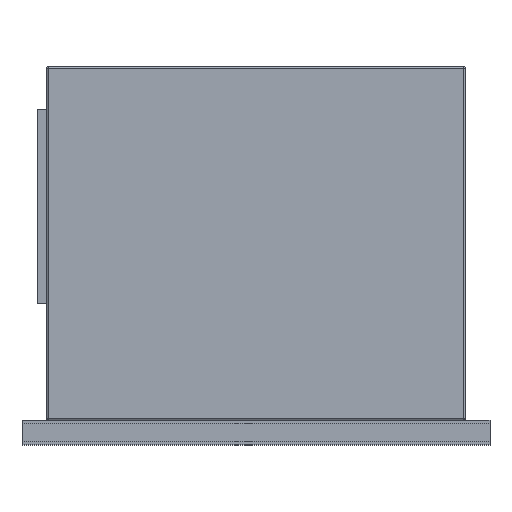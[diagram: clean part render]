
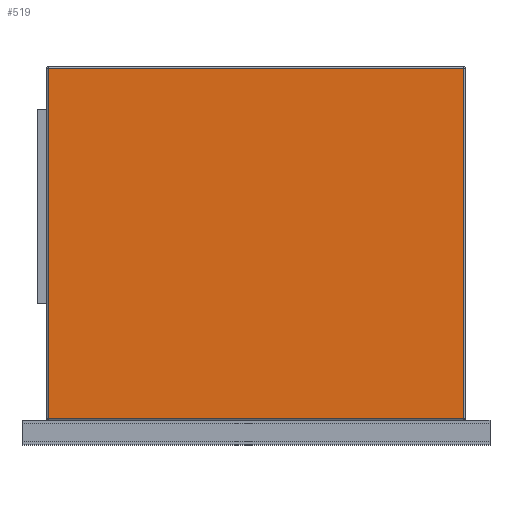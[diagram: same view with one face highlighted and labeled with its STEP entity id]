
A CAD part, top view. The second image highlights one B-rep face of the part: STEP entity #519.
In plain terms, the highlighted planar face has unit normal (0, 0, 1).
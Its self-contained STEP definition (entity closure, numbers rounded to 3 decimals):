
#519=ADVANCED_FACE('',(#1055),#1056,.F.);
#1055=FACE_OUTER_BOUND('',#1589,.T.);
#1056=PLANE('',#1590);
#1589=EDGE_LOOP('',(#3114,#3115,#3116,#3117));
#1590=AXIS2_PLACEMENT_3D('',#3118,#3119,#3120);
#3114=ORIENTED_EDGE('',*,*,#3721,.T.);
#3115=ORIENTED_EDGE('',*,*,#3761,.T.);
#3116=ORIENTED_EDGE('',*,*,#3743,.F.);
#3117=ORIENTED_EDGE('',*,*,#3768,.F.);
#3118=CARTESIAN_POINT('',(0.,0.0,387.5));
#3119=DIRECTION('',(0.,0.0,-1.0));
#3120=DIRECTION('',(-1.0,0.0,0.));
#3721=EDGE_CURVE('',#4589,#4593,#4595,.T.);
#3743=EDGE_CURVE('',#4627,#4621,#4629,.T.);
#3761=EDGE_CURVE('',#4593,#4621,#4649,.T.);
#3768=EDGE_CURVE('',#4589,#4627,#4656,.T.);
#4589=VERTEX_POINT('',#5752);
#4593=VERTEX_POINT('',#5756);
#4595=LINE('',#5758,#5759);
#4621=VERTEX_POINT('',#5788);
#4627=VERTEX_POINT('',#5795);
#4629=LINE('',#5797,#5798);
#4649=LINE('',#5822,#5823);
#4656=LINE('',#5833,#5834);
#5752=CARTESIAN_POINT('',(-670.0,-565.0,387.5));
#5756=CARTESIAN_POINT('',(670.0,-565.0,387.5));
#5758=CARTESIAN_POINT('',(0.,-565.0,387.5));
#5759=VECTOR('',#6514,1.0);
#5788=CARTESIAN_POINT('',(670.0,565.0,387.5));
#5795=CARTESIAN_POINT('',(-670.0,565.0,387.5));
#5797=CARTESIAN_POINT('',(0.,565.0,387.5));
#5798=VECTOR('',#6552,1.0);
#5822=CARTESIAN_POINT('',(670.0,0.,387.5));
#5823=VECTOR('',#6575,1.0);
#5833=CARTESIAN_POINT('',(-670.0,0.0,387.5));
#5834=VECTOR('',#6579,1.0);
#6514=DIRECTION('',(1.0,0.0,0.));
#6552=DIRECTION('',(1.0,0.0,0.));
#6575=DIRECTION('',(0.0,1.0,0.));
#6579=DIRECTION('',(0.,1.0,0.));
